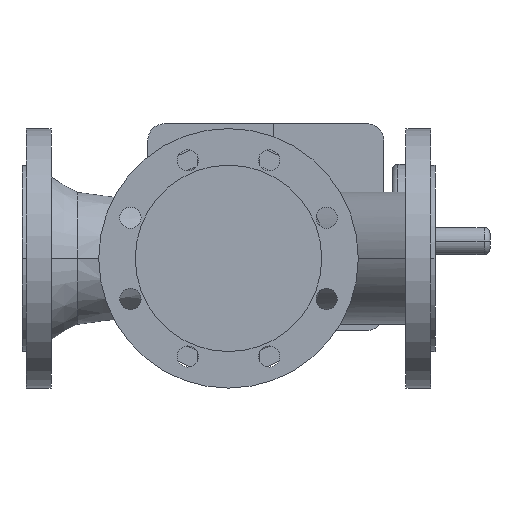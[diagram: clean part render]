
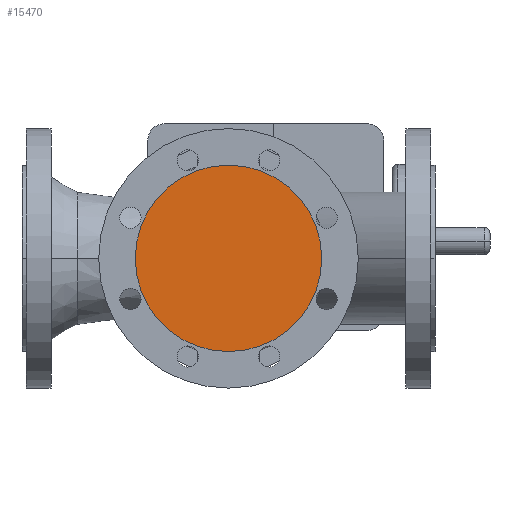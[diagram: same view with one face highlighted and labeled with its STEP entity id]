
A CAD part, front view. The second image highlights one B-rep face of the part: STEP entity #15470.
In plain terms, the highlighted planar face has unit normal (0, -1, 0).
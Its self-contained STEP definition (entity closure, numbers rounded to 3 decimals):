
#3290=CARTESIAN_POINT('',(254.,-150.,0.));
#3300=VERTEX_POINT('',#3290);
#3460=CARTESIAN_POINT('',(96.,-150.,0.));
#3470=VERTEX_POINT('',#3460);
#3500=CARTESIAN_POINT('',(175.,-150.,0.));
#3510=DIRECTION('',(0.,1.,0.));
#3520=DIRECTION('',(1.,0.,0.));
#3530=AXIS2_PLACEMENT_3D('',#3500,#3510,#3520);
#3540=CIRCLE('',#3530,79.);
#3550=EDGE_CURVE('',#3300,#3470,#3540,.T.);
#15370=CARTESIAN_POINT('',(214.5,-150.,0.));
#15380=DIRECTION('',(0.,-1.,0.));
#15390=DIRECTION('',(-1.,0.,0.));
#15400=AXIS2_PLACEMENT_3D('',#15370,#15380,#15390);
#15410=PLANE('',#15400);
#15420=EDGE_CURVE('',#3470,#3300,#3540,.T.);
#15430=ORIENTED_EDGE('',*,*,#15420,.F.);
#15440=ORIENTED_EDGE('',*,*,#3550,.F.);
#15450=EDGE_LOOP('',(#15440,#15430));
#15460=FACE_OUTER_BOUND('',#15450,.T.);
#15470=ADVANCED_FACE('',(#15460),#15410,.T.);
